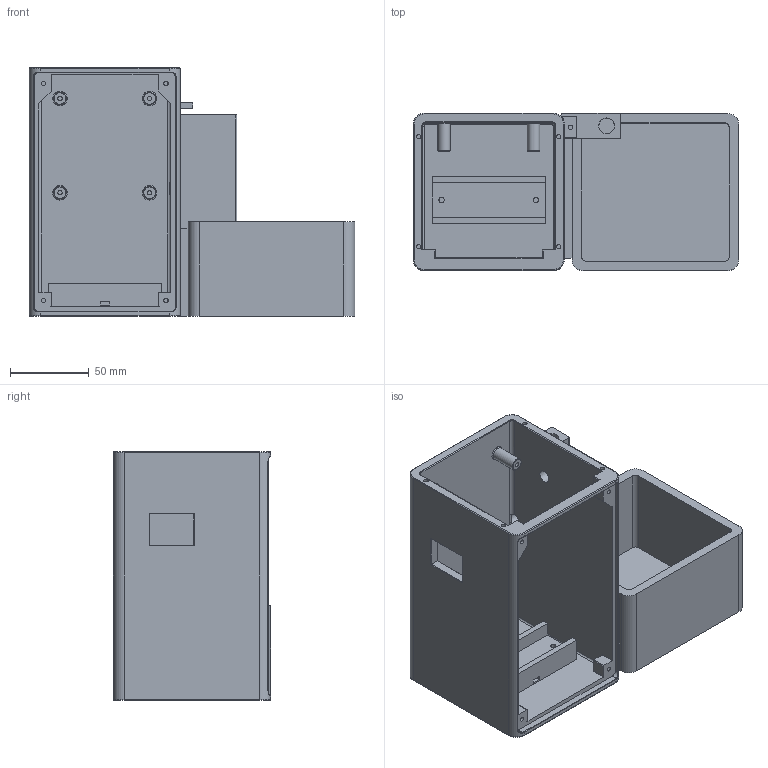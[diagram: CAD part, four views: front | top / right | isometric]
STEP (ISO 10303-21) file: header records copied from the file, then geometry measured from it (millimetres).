
FILE_DESCRIPTION(('Open CASCADE Model'),'2;1');
FILE_NAME('Open CASCADE Shape Model','2026-09-13T21:36:04',('Author'),( 'Open CASCADE'),'Open CASCADE STEP processor 7.9','Open CASCADE 7.9' ,'Unknown');
FILE_SCHEMA(('AUTOMOTIVE_DESIGN { 1 0 10303 214 1 1 1 1 }'));
Length unit declared in the file: millimetre
Products named in the file (1): Open CASCADE STEP translator 7.9 5
Bounding box: 207 x 100 x 158 mm (x, y, z)
Volume: 562909.6 mm3; surface area: 183332.5 mm2
Topology: 1 solids, 1 shells, 224 faces, 555 edges, 347 vertices
Faces by surface type: plane 125, cylinder 71, torus 20, bspline 4, cone 4
Full cylindrical faces by diameter (mm): 2.8 x13, 3.4 x2, 8 x7, 10 x1
Entity records: 15431 total; most frequent: CARTESIAN_POINT 4430, DIRECTION 2012, LINE 1117, VECTOR 1117, ORIENTED_EDGE 1110, PCURVE 1110, DEFINITIONAL_REPRESENTATION 1110, EDGE_CURVE 555
